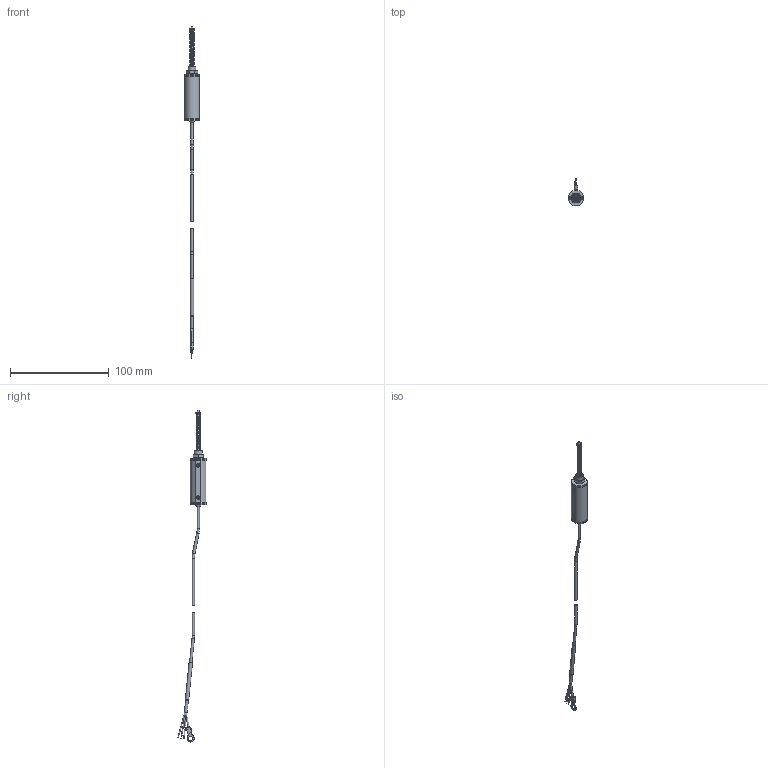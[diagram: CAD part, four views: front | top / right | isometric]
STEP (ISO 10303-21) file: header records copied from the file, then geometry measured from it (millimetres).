
FILE_DESCRIPTION(/* description */ (''),/* implementation_level */ '2;1');
FILE_NAME(/* name */ 'D:\Users\Justin\Documents\CAD Drawings\The Sensor Connection\LPPS\LPPS-MSL\3D\LPPS-MSL-015\LPPS-MSL-015.stp',/* time_stamp */ '2019-08-29T15:20:18-04:00',/* author */ ('Justin'),/* organization */ (''),/* preprocessor_version */ 'ST-DEVELOPER v18',/* originating_system */ 'Autodesk Inventor 2020',/* authorisation */ '');
FILE_SCHEMA (('AUTOMOTIVE_DESIGN { 1 0 10303 214 3 1 1 }'));
Length unit declared in the file: inch
Products named in the file (5): LPPS-MSL-015; LPPS-MSL-015 Housing Assembly_Shrinkwrap_1; LPPS-MSL-015 Shaft Assembly_Shrinkwrap_1; ISO 4035 - M8(6); LPPS-MSL-015 Spring
Assembly tree (4 placements, depth 2):
  LPPS-MSL-015
    LPPS-MSL-015 Housing Assembly_Shrinkwrap_1
    LPPS-MSL-015 Shaft Assembly_Shrinkwrap_1
    ISO 4035 - M8(6)
    LPPS-MSL-015 Spring
Bounding box: 15.1 x 28.76 x 336.68 mm (x, y, z)
Volume: 5560.6 mm3; surface area: 10852.2 mm2
Topology: 24 solids, 24 shells, 339 faces, 855 edges, 577 vertices
Faces by surface type: plane 162, cylinder 83, cone 70, torus 21, sphere 2, bspline 1
Full cylindrical faces by diameter (mm): 0.381 x3, 0.635 x3, 1.5 x1, 1.755 x4, 2 x8, 2.274 x1, 2.5 x6, 2.75 x1, 2.85 x3, 3 x1, 3.5 x5, 4.191 x1, 5 x3, 6.1 x1, 6.5 x2, 6.647 x1, 8 x1, 9 x3, 9.5 x1
Entity records: 14655 total; most frequent: CARTESIAN_POINT 5793, DIRECTION 1752, ORIENTED_EDGE 1698, EDGE_CURVE 849, AXIS2_PLACEMENT_3D 697, VERTEX_POINT 577, EDGE_LOOP 404, LINE 358
